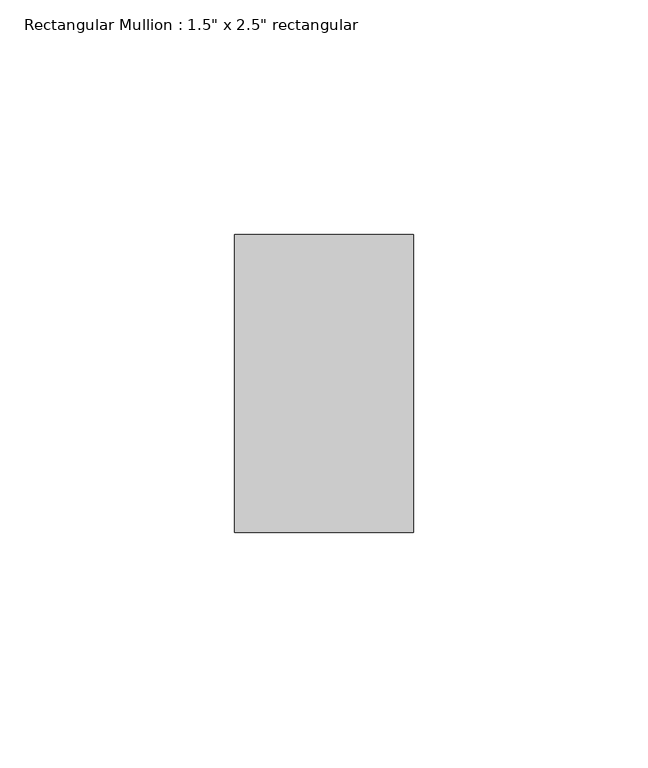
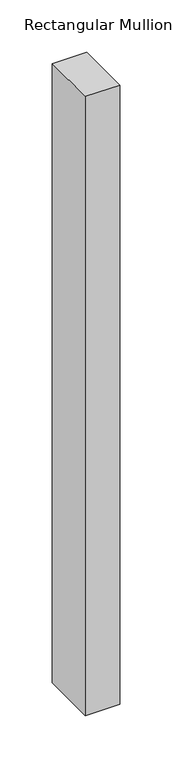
"""IFC4 building model written with IfcOpenShell, lengths in millimetres: member geometry."""

from ifc_helpers import new_model, si_unit, frame, origin, place, context, project, spatial, polyline, outline, extrude, source, transform, mapped, element, save


def member_2e5d21c2(model_context):
    return source(origin(), model_context, "Body", "SweptSolid", [
        extrude(outline(polyline([(19.05, 31.75), (19.05, -31.75), (-19.05, -31.75), (-19.05, 31.75), (19.05, 31.75)])), frame((0.0, 0.0, -724.9128467), z_axis=(0.0, 0.0, 1.0), x_axis=(1.0, 0.0, 0.0)), (0.0, 0.0, 1.0), 724.9128467),
    ])


if __name__ == "__main__":
    model = new_model("IFC4")
    model_context = context("Model", 3, world=origin())
    ifc_project = project(units=[si_unit("LENGTHUNIT", "METRE", prefix="MILLI")], contexts=[model_context])
    site = spatial("IfcSite", under=ifc_project)
    building = spatial("IfcBuilding", under=site)
    placement = place(None, origin())
    member_shape = member_2e5d21c2(model_context)
    element("IfcMember", 1, ObjectType="Rectangular Mullion : 1.5\" x 2.5\" rectangular", at=placement, inside=building, context=model_context, shape_type="MappedRepresentation", body=[
        mapped(member_shape, transform((0.0, 0.0, 0.0), x_axis=(1.0, 0.0, 0.0), y_axis=(0.0, 1.0, 0.0), z_axis=(0.0, 0.0, 1.0))),
    ])
    save(model, "model.ifc")
